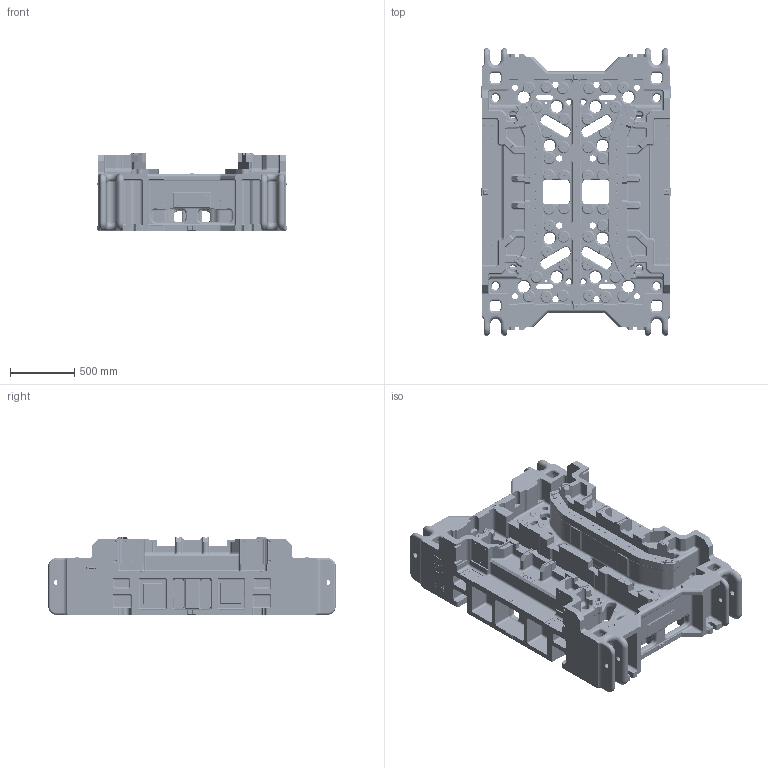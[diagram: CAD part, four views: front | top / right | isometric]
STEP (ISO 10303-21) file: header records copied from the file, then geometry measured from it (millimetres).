
FILE_DESCRIPTION(/* description */ (''),/* implementation_level */ '2;1');
FILE_NAME(/* name */ '070_Odlew dolny.stp',/* time_stamp */ '2021-06-30T15:38:05+02:00',/* author */ (''),/* organization */ (''),/* preprocessor_version */ 'ST-DEVELOPER v16',/* originating_system */ 'SIEMENS PLM Software NX 10.0',/* authorisation */ '');
FILE_SCHEMA (('AUTOMOTIVE_DESIGN { 1 0 10303 214 3 1 1 1 }'));
Products named in the file (1): 070_Odlew dolny
Bounding box: 1470 x 2230 x 600 mm (x, y, z)
Volume: 295309.7 mm3; surface area: 22339651.3 mm2
Topology: 8 solids, 7554 shells, 7578 faces, 38170 edges, 37463 vertices
Faces by surface type: cylinder 2507, plane 2298, bspline 1251, torus 838, sphere 300, cone 258, extrusion 126
Full cylindrical faces by diameter (mm): 4.2 x4, 6.8 x6, 8.5 x102, 10.3 x40, 12 x12, 14 x26, 15 x5, 16 x2, 18 x4, 26 x4, 40 x4, 42 x8, 48 x12, 50 x20, 52 x16, 60 x4, 90 x12
Entity records: 502690 total; most frequent: CARTESIAN_POINT 144992, DIRECTION 58538, VERTEX_POINT 36534, ORIENTED_EDGE 36368, EDGE_CURVE 36336, AXIS2_PLACEMENT_3D 21232, VECTOR 16074, LINE 15948
